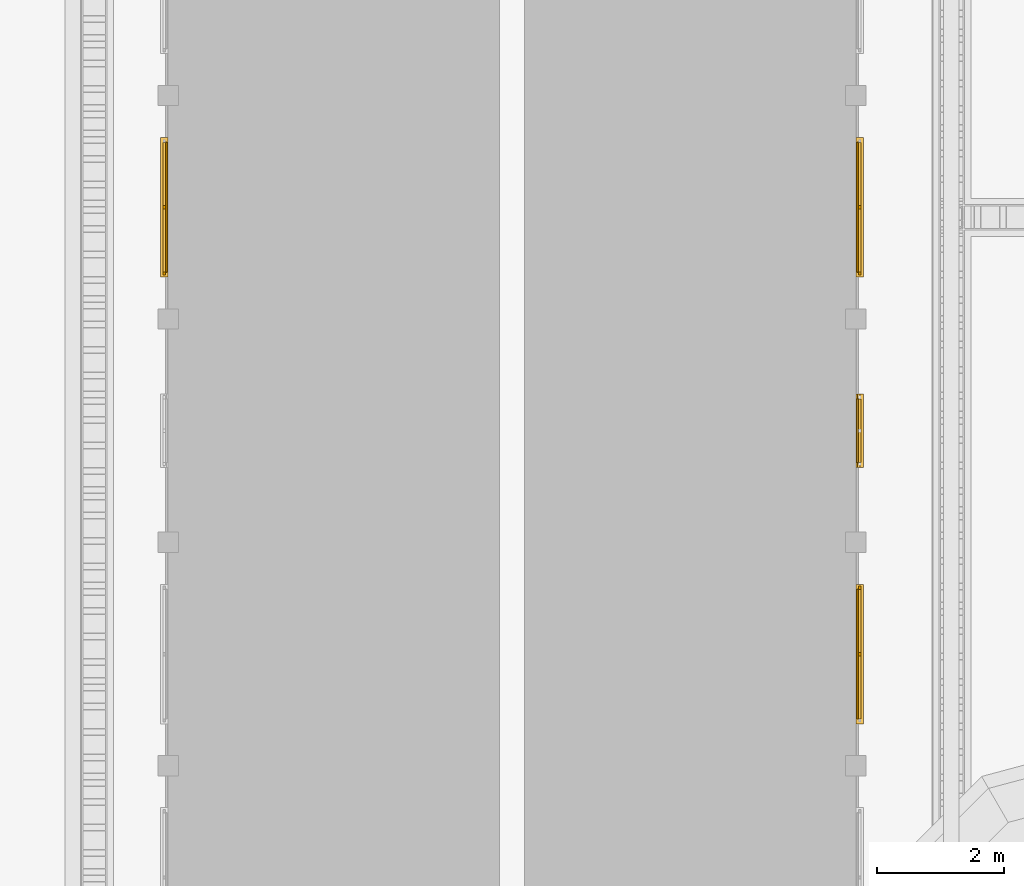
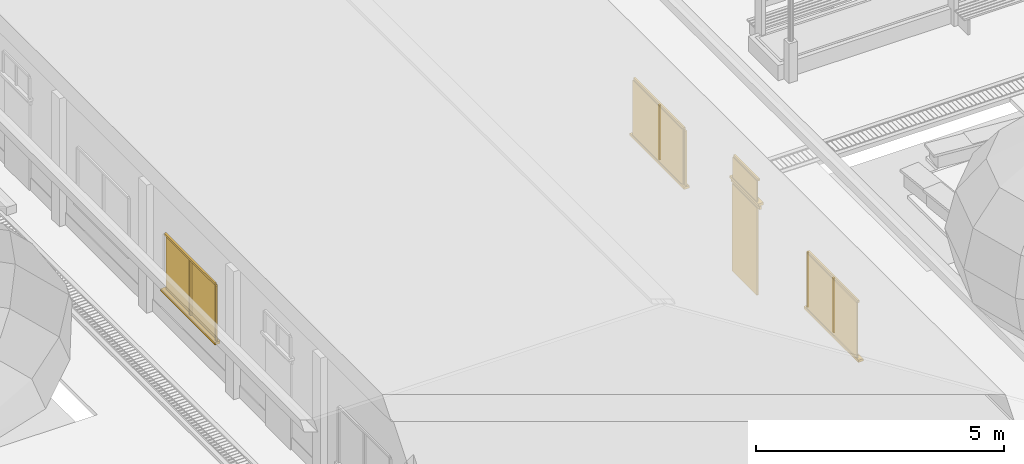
# One storey, part 43 of 166: 18 windows, 2 doors.
"""IFC2X3 building model written with IfcOpenShell, lengths in metres."""

from ifc_helpers import new_model, si_unit, origin, origin_with_axes, place, context, subcontext, project, spatial, faceted_brep, element, save


model = new_model("IFC2X3")

# Units and contexts
model_context = context("Model", 3, precision=1e-05, world=origin_with_axes())
body_context = subcontext(model_context, "Body", "Model", "MODEL_VIEW")
ifc_project = project(units=[si_unit("LENGTHUNIT", "METRE"), si_unit("AREAUNIT", "SQUARE_METRE"), si_unit("VOLUMEUNIT", "CUBIC_METRE"), si_unit("PLANEANGLEUNIT", "RADIAN")], contexts=[model_context])

# Site, building, storey
site_placement = place(None, origin_with_axes())
site = spatial("IfcSite", under=ifc_project, at=site_placement, Name="Predio Los Mangos - Morales, San Martín", CompositionType="ELEMENT")
building_placement = place(site_placement, origin())
building = spatial("IfcBuilding", under=site, at=building_placement, Name="Hogar de Refugio Temporal", CompositionType="ELEMENT")
storey_placement = place(building_placement, origin())
storey = spatial("IfcBuildingStorey", under=building, at=storey_placement, Name="NIVEL 1 (NPT +0.00)", CompositionType="ELEMENT", Elevation=0.0)

# Windows
window_1_placement = place(storey_placement, origin())
element("IfcWindow", 1, at=window_1_placement, inside=storey, Name="E-04_v5_vid", ObjectType="Ventana", context=body_context, shape_type="Brep", body=[
    faceted_brep([(13.76, 70.3871, 1.05), (13.76, 72.4229, 1.05), (13.78, 72.4229, 1.05), (13.78, 70.3871, 1.05), (13.76, 70.3871, 2.4), (13.78, 70.3871, 2.4), (13.78, 72.4229, 2.4), (13.76, 72.4229, 2.4)], [[[0, 1, 2, 3]], [[4, 5, 6, 7]], [[0, 3, 5, 4]], [[3, 2, 6, 5]], [[2, 1, 7, 6]], [[1, 0, 4, 7]]]),
])
window_2_placement = place(storey_placement, origin())
element("IfcWindow", 2, at=window_2_placement, inside=storey, Name="E-04_v5_m", ObjectType="Ventana", context=body_context, shape_type="Brep", body=[
    faceted_brep([(13.72, 70.3371, 1.05), (13.72, 70.3871, 1.05), (13.76, 70.3871, 1.05), (13.76, 70.3371, 1.05), (13.72, 70.3371, 2.4), (13.76, 70.3371, 2.4), (13.76, 70.3871, 2.4), (13.72, 70.3871, 2.4)], [[[0, 1, 2, 3]], [[4, 5, 6, 7]], [[0, 3, 5, 4]], [[3, 2, 6, 5]], [[2, 1, 7, 6]], [[1, 0, 4, 7]]]),
])
window_3_placement = place(storey_placement, origin())
element("IfcWindow", 3, at=window_3_placement, inside=storey, Name="E-04_v5_m", ObjectType="Ventana", context=body_context, shape_type="Brep", body=[
    faceted_brep([(13.72, 70.3871, 2.4), (13.72, 72.4229, 2.4), (13.76, 72.4229, 2.4), (13.76, 70.3871, 2.4), (13.72, 70.3871, 2.45), (13.76, 70.3871, 2.45), (13.76, 72.4229, 2.45), (13.72, 72.4229, 2.45)], [[[0, 1, 2, 3]], [[4, 5, 6, 7]], [[0, 3, 5, 4]], [[3, 2, 6, 5]], [[2, 1, 7, 6]], [[1, 0, 4, 7]]]),
])
window_4_placement = place(storey_placement, origin())
element("IfcWindow", 4, at=window_4_placement, inside=storey, Name="E-04_v5_m", ObjectType="Ventana", context=body_context, shape_type="Brep", body=[
    faceted_brep([(13.72, 71.38, 1.05), (13.72, 71.43, 1.05), (13.76, 71.43, 1.05), (13.76, 71.38, 1.05), (13.72, 71.38, 2.4), (13.76, 71.38, 2.4), (13.76, 71.43, 2.4), (13.72, 71.43, 2.4)], [[[0, 1, 2, 3]], [[4, 5, 6, 7]], [[0, 3, 5, 4]], [[3, 2, 6, 5]], [[2, 1, 7, 6]], [[1, 0, 4, 7]]]),
])
window_5_placement = place(storey_placement, origin())
element("IfcWindow", 5, at=window_5_placement, inside=storey, Name="E-04_v5_alf", ObjectType="Ventana", context=body_context, shape_type="Brep", body=[
    faceted_brep([(13.8, 70.3071, 0.99), (13.8, 72.5029, 0.99), (13.68, 72.5029, 0.99), (13.68, 70.3071, 0.99), (13.8, 70.3071, 1.05), (13.68, 70.3071, 1.05), (13.68, 72.5029, 1.05), (13.8, 72.5029, 1.05)], [[[0, 1, 2, 3]], [[4, 5, 6, 7]], [[0, 3, 5, 4]], [[3, 2, 6, 5]], [[2, 1, 7, 6]], [[1, 0, 4, 7]]]),
])
window_6_placement = place(storey_placement, origin())
element("IfcWindow", 6, at=window_6_placement, inside=storey, Name="E-04_v3_vid", ObjectType="Ventana", context=body_context, shape_type="Brep", body=[
    faceted_brep([(24.62, 63.3671, 1.05), (24.62, 65.4029, 1.05), (24.64, 65.4029, 1.05), (24.64, 63.3671, 1.05), (24.62, 63.3671, 2.4), (24.64, 63.3671, 2.4), (24.64, 65.4029, 2.4), (24.62, 65.4029, 2.4)], [[[0, 1, 2, 3]], [[4, 5, 6, 7]], [[0, 3, 5, 4]], [[3, 2, 6, 5]], [[2, 1, 7, 6]], [[1, 0, 4, 7]]]),
])
window_7_placement = place(storey_placement, origin())
element("IfcWindow", 7, at=window_7_placement, inside=storey, Name="E-04_v3_m", ObjectType="Ventana", context=body_context, shape_type="Brep", body=[
    faceted_brep([(24.64, 65.4029, 1.05), (24.64, 65.4529, 1.05), (24.68, 65.4529, 1.05), (24.68, 65.4029, 1.05), (24.64, 65.4029, 2.4), (24.68, 65.4029, 2.4), (24.68, 65.4529, 2.4), (24.64, 65.4529, 2.4)], [[[0, 1, 2, 3]], [[4, 5, 6, 7]], [[0, 3, 5, 4]], [[3, 2, 6, 5]], [[2, 1, 7, 6]], [[1, 0, 4, 7]]]),
])
window_8_placement = place(storey_placement, origin())
element("IfcWindow", 8, at=window_8_placement, inside=storey, Name="E-04_v3_m", ObjectType="Ventana", context=body_context, shape_type="Brep", body=[
    faceted_brep([(24.64, 63.3671, 2.4), (24.64, 65.4029, 2.4), (24.68, 65.4029, 2.4), (24.68, 63.3671, 2.4), (24.64, 63.3671, 2.45), (24.68, 63.3671, 2.45), (24.68, 65.4029, 2.45), (24.64, 65.4029, 2.45)], [[[0, 1, 2, 3]], [[4, 5, 6, 7]], [[0, 3, 5, 4]], [[3, 2, 6, 5]], [[2, 1, 7, 6]], [[1, 0, 4, 7]]]),
])
window_9_placement = place(storey_placement, origin())
element("IfcWindow", 9, at=window_9_placement, inside=storey, Name="E-04_v3_m", ObjectType="Ventana", context=body_context, shape_type="Brep", body=[
    faceted_brep([(24.64, 64.36, 1.05), (24.64, 64.41, 1.05), (24.68, 64.41, 1.05), (24.68, 64.36, 1.05), (24.64, 64.36, 2.4), (24.68, 64.36, 2.4), (24.68, 64.41, 2.4), (24.64, 64.41, 2.4)], [[[0, 1, 2, 3]], [[4, 5, 6, 7]], [[0, 3, 5, 4]], [[3, 2, 6, 5]], [[2, 1, 7, 6]], [[1, 0, 4, 7]]]),
])
window_10_placement = place(storey_placement, origin())
element("IfcWindow", 10, at=window_10_placement, inside=storey, Name="E-04_v3_alf", ObjectType="Ventana", context=body_context, shape_type="Brep", body=[
    faceted_brep([(24.6, 63.2871, 0.99), (24.6, 65.4829, 0.99), (24.72, 65.4829, 0.99), (24.72, 63.2871, 0.99), (24.6, 63.2871, 1.05), (24.72, 63.2871, 1.05), (24.72, 65.4829, 1.05), (24.6, 65.4829, 1.05)], [[[0, 1, 2, 3]], [[4, 5, 6, 7]], [[0, 3, 5, 4]], [[3, 2, 6, 5]], [[2, 1, 7, 6]], [[1, 0, 4, 7]]]),
])

# Doors
door_1_placement = place(storey_placement, origin())
element("IfcDoor", 11, at=door_1_placement, inside=storey, Name="E-04_p4", ObjectType="Puerta", context=body_context, shape_type="Brep", body=[
    faceted_brep([(24.61, 67.395, 0.15), (24.61, 68.395, 0.15), (24.65, 68.395, 0.15), (24.65, 67.395, 0.15), (24.61, 67.395, 2.3), (24.65, 67.395, 2.3), (24.65, 68.395, 2.3), (24.61, 68.395, 2.3)], [[[0, 1, 2, 3]], [[4, 5, 6, 7]], [[0, 3, 5, 4]], [[3, 2, 6, 5]], [[2, 1, 7, 6]], [[1, 0, 4, 7]]]),
])
door_2_placement = place(storey_placement, origin())
element("IfcDoor", 12, at=door_2_placement, inside=storey, Name="E-04_p4_marco", ObjectType="Puerta", context=body_context, shape_type="Brep", body=[
    faceted_brep([(24.63, 67.315, 2.3), (24.63, 68.475, 2.3), (24.67, 68.475, 2.3), (24.67, 67.315, 2.3), (24.63, 67.315, 2.38), (24.67, 67.315, 2.38), (24.67, 68.475, 2.38), (24.63, 68.475, 2.38)], [[[0, 1, 2, 3]], [[4, 5, 6, 7]], [[0, 3, 5, 4]], [[3, 2, 6, 5]], [[2, 1, 7, 6]], [[1, 0, 4, 7]]]),
])

# Windows
window_11_placement = place(storey_placement, origin())
element("IfcWindow", 13, at=window_11_placement, inside=storey, Name="E-04_vt4_vid", ObjectType="Ventana", context=body_context, shape_type="Brep", body=[
    faceted_brep([(24.62, 67.395, 2.45), (24.62, 68.395, 2.45), (24.64, 68.395, 2.45), (24.64, 67.395, 2.45), (24.62, 67.395, 2.95), (24.64, 67.395, 2.95), (24.64, 68.395, 2.95), (24.62, 68.395, 2.95)], [[[0, 1, 2, 3]], [[4, 5, 6, 7]], [[0, 3, 5, 4]], [[3, 2, 6, 5]], [[2, 1, 7, 6]], [[1, 0, 4, 7]]]),
])
window_12_placement = place(storey_placement, origin())
element("IfcWindow", 14, at=window_12_placement, inside=storey, Name="E-04_vt4_m", ObjectType="Ventana", context=body_context, shape_type="Brep", body=[
    faceted_brep([(24.64, 67.395, 2.95), (24.64, 68.395, 2.95), (24.68, 68.395, 2.95), (24.68, 67.395, 2.95), (24.64, 67.395, 3.0), (24.68, 67.395, 3.0), (24.68, 68.395, 3.0), (24.64, 68.395, 3.0)], [[[0, 1, 2, 3]], [[4, 5, 6, 7]], [[0, 3, 5, 4]], [[3, 2, 6, 5]], [[2, 1, 7, 6]], [[1, 0, 4, 7]]]),
])
window_13_placement = place(storey_placement, origin())
element("IfcWindow", 15, at=window_13_placement, inside=storey, Name="E-04_vt4_alf", ObjectType="Ventana", context=body_context, shape_type="Brep", body=[
    faceted_brep([(24.6, 67.315, 2.39), (24.6, 68.475, 2.39), (24.72, 68.475, 2.39), (24.72, 67.315, 2.39), (24.6, 67.315, 2.45), (24.72, 67.315, 2.45), (24.72, 68.475, 2.45), (24.6, 68.475, 2.45)], [[[0, 1, 2, 3]], [[4, 5, 6, 7]], [[0, 3, 5, 4]], [[3, 2, 6, 5]], [[2, 1, 7, 6]], [[1, 0, 4, 7]]]),
])
window_14_placement = place(storey_placement, origin())
element("IfcWindow", 16, at=window_14_placement, inside=storey, Name="E-04_v5_vid", ObjectType="Ventana", context=body_context, shape_type="Brep", body=[
    faceted_brep([(24.62, 70.3871, 1.05), (24.62, 72.4229, 1.05), (24.64, 72.4229, 1.05), (24.64, 70.3871, 1.05), (24.62, 70.3871, 2.4), (24.64, 70.3871, 2.4), (24.64, 72.4229, 2.4), (24.62, 72.4229, 2.4)], [[[0, 1, 2, 3]], [[4, 5, 6, 7]], [[0, 3, 5, 4]], [[3, 2, 6, 5]], [[2, 1, 7, 6]], [[1, 0, 4, 7]]]),
])
window_15_placement = place(storey_placement, origin())
element("IfcWindow", 17, at=window_15_placement, inside=storey, Name="E-04_v5_m", ObjectType="Ventana", context=body_context, shape_type="Brep", body=[
    faceted_brep([(24.64, 70.3371, 1.05), (24.64, 70.3871, 1.05), (24.68, 70.3871, 1.05), (24.68, 70.3371, 1.05), (24.64, 70.3371, 2.4), (24.68, 70.3371, 2.4), (24.68, 70.3871, 2.4), (24.64, 70.3871, 2.4)], [[[0, 1, 2, 3]], [[4, 5, 6, 7]], [[0, 3, 5, 4]], [[3, 2, 6, 5]], [[2, 1, 7, 6]], [[1, 0, 4, 7]]]),
])
window_16_placement = place(storey_placement, origin())
element("IfcWindow", 18, at=window_16_placement, inside=storey, Name="E-04_v5_m", ObjectType="Ventana", context=body_context, shape_type="Brep", body=[
    faceted_brep([(24.64, 70.3871, 2.4), (24.64, 72.4229, 2.4), (24.68, 72.4229, 2.4), (24.68, 70.3871, 2.4), (24.64, 70.3871, 2.45), (24.68, 70.3871, 2.45), (24.68, 72.4229, 2.45), (24.64, 72.4229, 2.45)], [[[0, 1, 2, 3]], [[4, 5, 6, 7]], [[0, 3, 5, 4]], [[3, 2, 6, 5]], [[2, 1, 7, 6]], [[1, 0, 4, 7]]]),
])
window_17_placement = place(storey_placement, origin())
element("IfcWindow", 19, at=window_17_placement, inside=storey, Name="E-04_v5_m", ObjectType="Ventana", context=body_context, shape_type="Brep", body=[
    faceted_brep([(24.64, 71.38, 1.05), (24.64, 71.43, 1.05), (24.68, 71.43, 1.05), (24.68, 71.38, 1.05), (24.64, 71.38, 2.4), (24.68, 71.38, 2.4), (24.68, 71.43, 2.4), (24.64, 71.43, 2.4)], [[[0, 1, 2, 3]], [[4, 5, 6, 7]], [[0, 3, 5, 4]], [[3, 2, 6, 5]], [[2, 1, 7, 6]], [[1, 0, 4, 7]]]),
])
window_18_placement = place(storey_placement, origin())
element("IfcWindow", 20, at=window_18_placement, inside=storey, Name="E-04_v5_alf", ObjectType="Ventana", context=body_context, shape_type="Brep", body=[
    faceted_brep([(24.6, 70.3071, 0.99), (24.6, 72.5029, 0.99), (24.72, 72.5029, 0.99), (24.72, 70.3071, 0.99), (24.6, 70.3071, 1.05), (24.72, 70.3071, 1.05), (24.72, 72.5029, 1.05), (24.6, 72.5029, 1.05)], [[[0, 1, 2, 3]], [[4, 5, 6, 7]], [[0, 3, 5, 4]], [[3, 2, 6, 5]], [[2, 1, 7, 6]], [[1, 0, 4, 7]]]),
])

save(model, "model.ifc")
